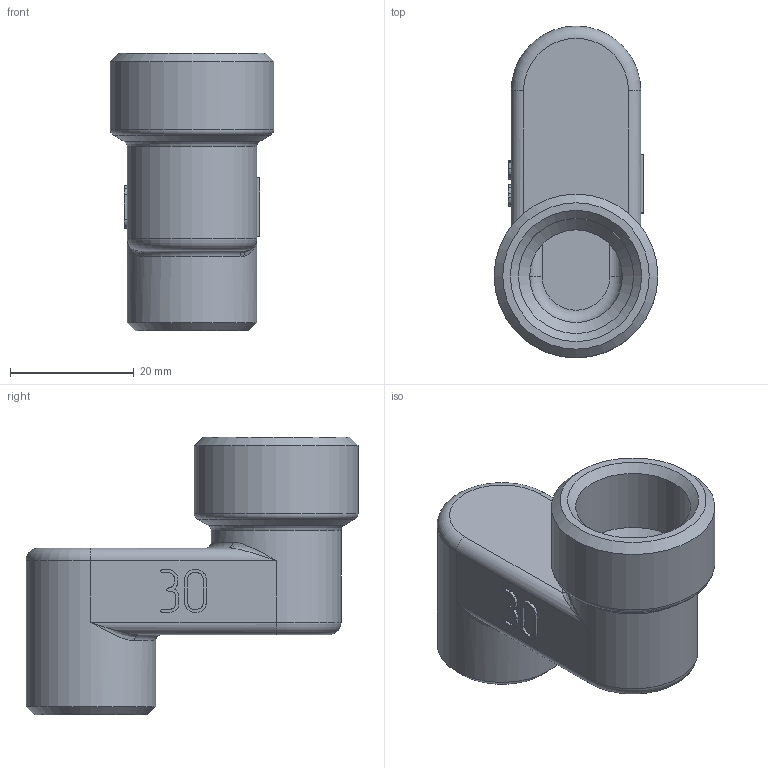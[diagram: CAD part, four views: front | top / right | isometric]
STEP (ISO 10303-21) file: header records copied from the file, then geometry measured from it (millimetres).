
FILE_DESCRIPTION(('STEP AP203'), '1');
FILE_NAME('ÂÐ.752289.009 - VTr.094.N.04030 - Ôèò. ðåçüá. ýêñö', '2024-06-21T11:50:59', ('Boss'), (''), 'C3D Converter', 'C3D Toolkit', '');
FILE_SCHEMA(('CONFIG_CONTROL_DESIGN'));
Length unit declared in the file: millimetre
Products named in the file (1): ВР.752289.009
Bounding box: 26.5 x 53.75 x 45 mm (x, y, z)
Volume: 14258.3 mm3; surface area: 9119.9 mm2
Topology: 1 solids, 1 shells, 131 faces, 341 edges, 210 vertices
Faces by surface type: plane 48, extrusion 44, cylinder 15, torus 11, bspline 8, cone 5
Full cylindrical faces by diameter (mm): 15 x2, 18.632 x1, 21 x2, 26.5 x1
Entity records: 4782 total; most frequent: CARTESIAN_POINT 1865, ORIENTED_EDGE 638, DIRECTION 453, EDGE_CURVE 319, VERTEX_POINT 210, VECTOR 209, LINE 165, B_SPLINE_CURVE_WITH_KNOTS 156
